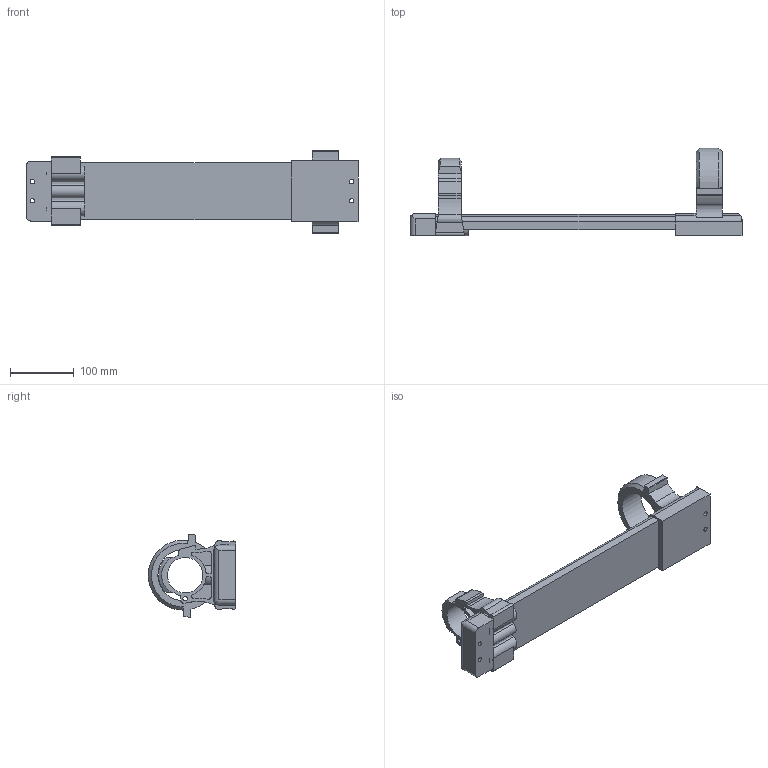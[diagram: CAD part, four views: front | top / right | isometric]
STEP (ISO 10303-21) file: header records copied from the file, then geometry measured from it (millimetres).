
FILE_DESCRIPTION( ( 'STEP AP214' ), '1' );
FILE_NAME( 'e:/temp/worker_23/temp/exporttempdir_6380_20_fmJF5/format_0/ROBOWAY.stp', '2021-05-03T15:24:37', ( 'License CC BY-ND 4.0' ), ( 'CADENAS' ), ' ', 'PARTsolutions', ' ' );
FILE_SCHEMA( ( 'AUTOMOTIVE_DESIGN { 1 0 10303 214 1 1 1 1 }' ) );
Length unit declared in the file: millimetre
Products named in the file (5): 177829375 RW-48 300L; _RWM-48; _RWR-48; _ST-RAIL 48-300; _RWF-48
Assembly tree (4 placements, depth 2):
  177829375 RW-48 300L
    _RWM-48
    _RWR-48
    _ST-RAIL 48-300
    _RWF-48
Bounding box: 522 x 137.49 x 129.11 mm (x, y, z)
Volume: 1571989.7 mm3; surface area: 227520.1 mm2
Topology: 4 solids, 4 shells, 193 faces, 548 edges, 365 vertices
Faces by surface type: plane 96, cylinder 93, cone 4
Full cylindrical faces by diameter (mm): 7 x5, 11 x4, 13 x1, 19 x2, 24 x1, 56 x1, 80 x1
Entity records: 8295 total; most frequent: CARTESIAN_POINT 1542, DIRECTION 1095, ORIENTED_EDGE 1054, EDGE_CURVE 527, AXIS2_PLACEMENT_3D 395, VERTEX_POINT 360, LINE 305, VECTOR 305
